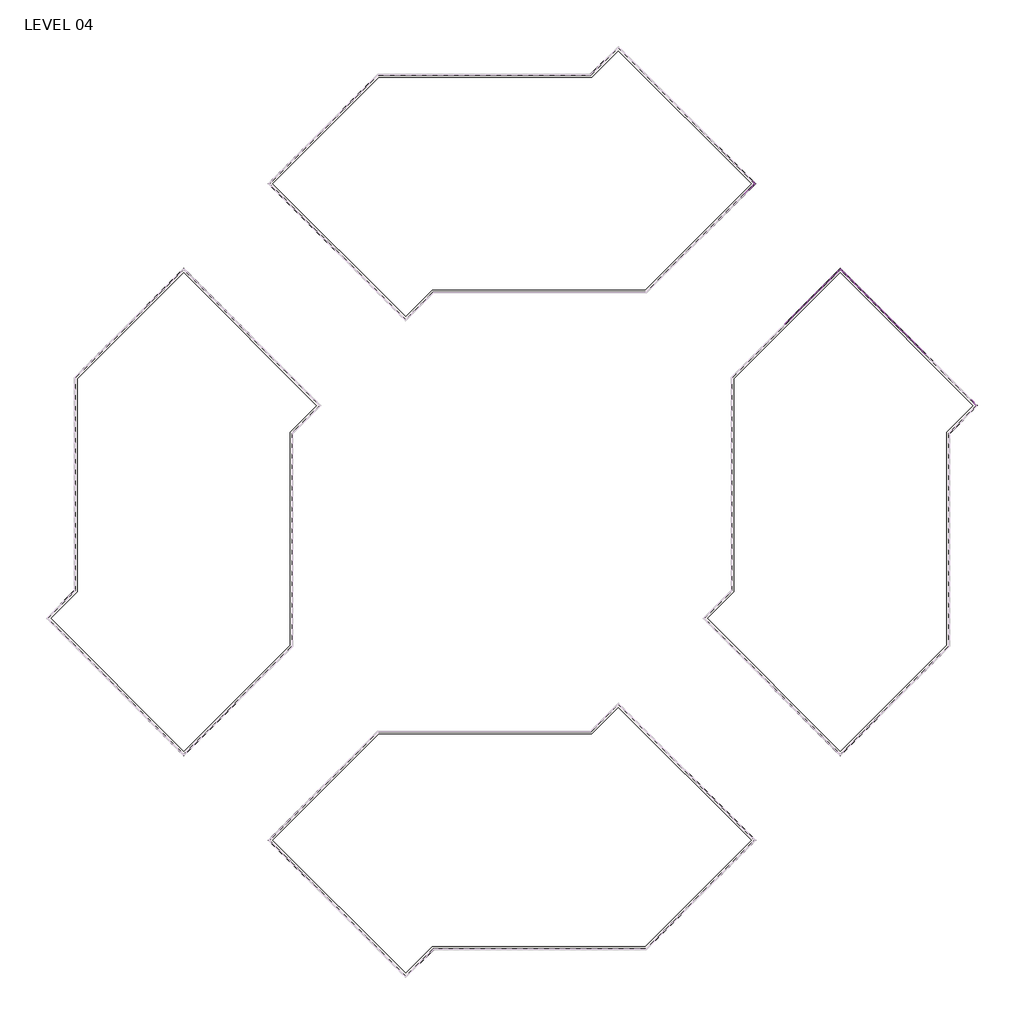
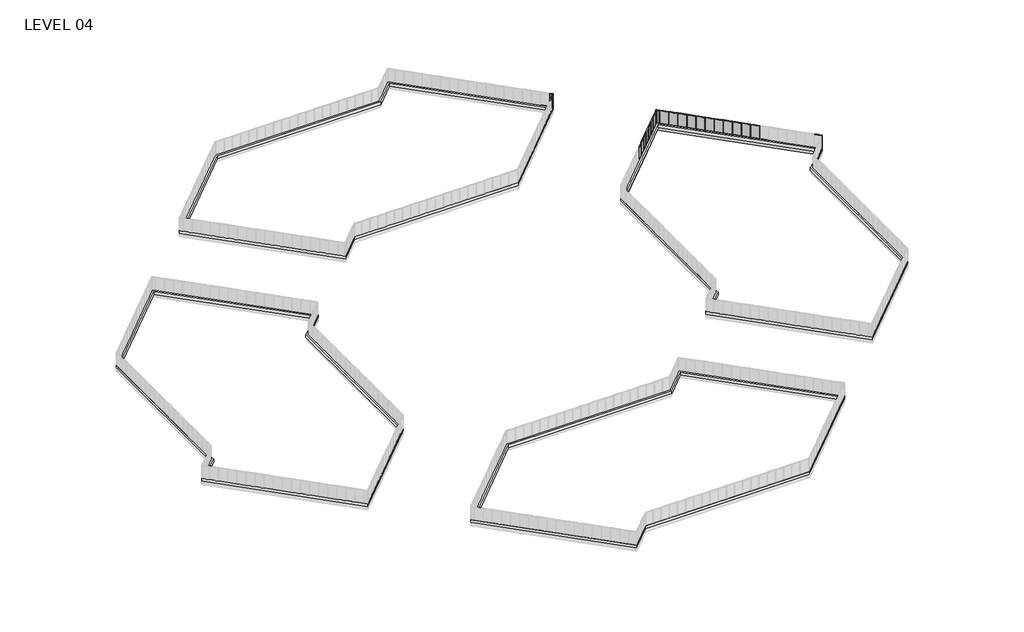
# One storey, part 17 of 17: 75 members, 22 plates, 4 slabs, 2 walls.
"""IFC4 building model written with IfcOpenShell, lengths in millimetres."""

from ifc_helpers import new_model, si_unit, frame, origin, place, context, project, spatial, polyline, outline, extrude, faceted_brep, transform, mapped, element, save
from components import member_5247f267, member_e44af9ab, member_800970d4, member_25b26a38, member_c23f844a, member_53409b32, member_ed9c17d6, member_0b71a88d, plate_6d527a83, plate_67294edd, plate_aaac5d3d, plate_50b9cd61, plate_048e4634, plate_e0fd5134, plate_62af1d3c, plate_dca6a18a

model = new_model("IFC4")

# Units and contexts
model_context = context("Model", 3, world=origin())
ifc_project = project(units=[si_unit("LENGTHUNIT", "METRE", prefix="MILLI")], contexts=[model_context])

# Site, building, storey
site = spatial("IfcSite", under=ifc_project)
building = spatial("IfcBuilding", under=site)
storey = spatial("IfcBuildingStorey", under=building, Name="LEVEL 04", Elevation=12052.3)

# Members
placement = place(None, origin())
member_shape = member_5247f267(model_context)
element("IfcMember", 1, ObjectType="Rectangular Mullion : 2\" x 4.5\" rectangular", at=placement, inside=storey, context=model_context, shape_type="MappedRepresentation", body=[
    mapped(member_shape, transform((64227.3404937, 104942.2679469, 12052.3), x_axis=(0.0, 0.0, -1.0), y_axis=(0.7071067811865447, 0.7071067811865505, 0.0), z_axis=(0.7071067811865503, -0.7071067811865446, 0.0))),
])
element("IfcMember", 2, ObjectType="Rectangular Mullion : 2\" x 4.5\" rectangular", at=placement, inside=storey, context=model_context, shape_type="MappedRepresentation", body=[
    mapped(member_shape, transform((64227.3404937, 104141.486663, 14643.1), x_axis=(0.0, 0.0, 1.0), y_axis=(0.7071067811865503, -0.7071067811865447, 0.0), z_axis=(0.7071067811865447, 0.7071067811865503, 0.0))),
])
member_2_shape = member_e44af9ab(model_context)
element("IfcMember", 3, ObjectType="Rectangular Mullion : 2\" x 4.5\" rectangular", at=placement, inside=storey, context=model_context, shape_type="MappedRepresentation", body=[
    mapped(member_2_shape, transform((64245.3010059, 104159.4471752, 12052.3), x_axis=(0.7071067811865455, 0.7071067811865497, 0.0), y_axis=(0.7071067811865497, -0.7071067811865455, 0.0), z_axis=(0.0, 0.0, -1.0))),
])
element("IfcMember", 4, ObjectType="Rectangular Mullion : 2\" x 4.5\" rectangular", at=placement, inside=storey, context=model_context, shape_type="MappedRepresentation", body=[
    mapped(member_2_shape, transform((64245.3010059, 104924.3074346, 12052.3), x_axis=(-0.7071067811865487, 0.7071067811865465, 0.0), y_axis=(0.7071067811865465, 0.7071067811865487, 0.0), z_axis=(0.0, 0.0, -1.0))),
])
member_3_shape = member_800970d4(model_context)
element("IfcMember", 5, ObjectType="Rectangular Mullion : 2\" x 4.5\" rectangular", at=placement, inside=storey, context=model_context, shape_type="MappedRepresentation", body=[
    mapped(member_3_shape, transform((64627.7311356, 104541.8773049, 12052.3), x_axis=(0.7071067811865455, 0.7071067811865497, 0.0), y_axis=(0.7071067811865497, -0.7071067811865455, 0.0), z_axis=(0.0, 0.0, -1.0))),
])
element("IfcMember", 6, ObjectType="Rectangular Mullion : 2\" x 4.5\" rectangular", at=placement, inside=storey, context=model_context, shape_type="MappedRepresentation", body=[
    mapped(member_3_shape, transform((64627.7311356, 104541.8773049, 14643.1), x_axis=(0.7071067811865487, -0.7071067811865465, 0.0), y_axis=(0.7071067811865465, 0.7071067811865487, 0.0), z_axis=(0.0, 0.0, 1.0))),
])
member_4_shape = member_25b26a38(model_context)
element("IfcMember", 7, ObjectType="Rectangular Mullion : 2\" x 4.5\" rectangular", at=placement, inside=storey, context=model_context, shape_type="MappedRepresentation", body=[
    mapped(member_4_shape, transform((64263.2615182, 104177.4076875, 12052.3), x_axis=(0.0, 0.0, -1.0), y_axis=(0.7071067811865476, -0.7071067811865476, 0.0), z_axis=(-0.7071067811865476, -0.7071067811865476, 0.0))),
])
element("IfcMember", 8, ObjectType="Rectangular Mullion : 2\" x 4.5\" rectangular", at=placement, inside=storey, context=model_context, shape_type="MappedRepresentation", body=[
    mapped(member_4_shape, transform((64591.8101111, 104577.7983294, 12052.3), x_axis=(0.0, 0.0, -1.0), y_axis=(0.7071067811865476, 0.7071067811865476, 0.0), z_axis=(0.7071067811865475, -0.7071067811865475, 0.0))),
])
element("IfcMember", 9, ObjectType="Rectangular Mullion : 2\" x 4.5\" rectangular", at=placement, inside=storey, context=model_context, shape_type="MappedRepresentation", body=[
    mapped(member_4_shape, transform((64591.8101111, 104505.9562804, 14643.1), x_axis=(0.0, 0.0, 1.0), y_axis=(0.7071067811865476, -0.7071067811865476, 0.0), z_axis=(0.7071067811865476, 0.7071067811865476, 0.0))),
])
element("IfcMember", 10, ObjectType="Rectangular Mullion : 2\" x 4.5\" rectangular", at=placement, inside=storey, context=model_context, shape_type="MappedRepresentation", body=[
    mapped(member_4_shape, transform((64263.2615182, 104906.3469224, 14643.1), x_axis=(0.0, 0.0, 1.0), y_axis=(0.7071067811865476, 0.7071067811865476, 0.0), z_axis=(-0.7071067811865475, 0.7071067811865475, 0.0))),
])
element("IfcMember", 11, ObjectType="Rectangular Mullion : 2\" x 4.5\" rectangular", at=placement, inside=storey, context=model_context, shape_type="MappedRepresentation", body=[
    mapped(member_shape, transform((69983.7142707, 85453.6032785, 14643.1), x_axis=(0.0, 0.0, 1.0), y_axis=(0.7071067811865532, -0.7071067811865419, 0.0), z_axis=(0.7071067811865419, 0.7071067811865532, 0.0))),
])
element("IfcMember", 12, ObjectType="Rectangular Mullion : 2\" x 4.5\" rectangular", at=placement, inside=storey, context=model_context, shape_type="MappedRepresentation", body=[
    mapped(member_shape, transform((71061.3302035, 86531.2192113, 14643.1), x_axis=(0.0, 0.0, 1.0), y_axis=(0.7071067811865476, -0.7071067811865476, 0.0), z_axis=(0.7071067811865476, 0.7071067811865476, 0.0))),
])
element("IfcMember", 13, ObjectType="Rectangular Mullion : 2\" x 4.5\" rectangular", at=placement, inside=storey, context=model_context, shape_type="MappedRepresentation", body=[
    mapped(member_shape, transform((73216.5768709, 88686.4658786, 14643.1), x_axis=(0.0, 0.0, 1.0), y_axis=(0.7071067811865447, -0.7071067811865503, 0.0), z_axis=(0.7071067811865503, 0.7071067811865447, 0.0))),
])
element("IfcMember", 14, ObjectType="Rectangular Mullion : 2\" x 4.5\" rectangular", at=placement, inside=storey, context=model_context, shape_type="MappedRepresentation", body=[
    mapped(member_shape, transform((72138.9535372, 87608.842545, 14643.1), x_axis=(0.0, 0.0, 1.0), y_axis=(0.7071067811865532, -0.7071067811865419, 0.0), z_axis=(0.7071067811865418, 0.7071067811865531, 0.0))),
])
element("IfcMember", 15, ObjectType="Rectangular Mullion : 2\" x 4.5\" rectangular", at=placement, inside=storey, context=model_context, shape_type="MappedRepresentation", body=[
    mapped(member_shape, transform((74294.2076054, 89764.0966131, 14643.1), x_axis=(0.0, 0.0, 1.0), y_axis=(0.7071067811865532, -0.7071067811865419, 0.0), z_axis=(0.7071067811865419, 0.7071067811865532, 0.0))),
])
element("IfcMember", 16, ObjectType="Rectangular Mullion : 2\" x 4.5\" rectangular", at=placement, inside=storey, context=model_context, shape_type="MappedRepresentation", body=[
    mapped(member_shape, transform((75371.8383399, 90841.7273477, 14643.1), x_axis=(0.0, 0.0, 1.0), y_axis=(0.7071067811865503, -0.7071067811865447, 0.0), z_axis=(0.7071067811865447, 0.7071067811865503, 0.0))),
])
element("IfcMember", 17, ObjectType="Rectangular Mullion : 2\" x 4.5\" rectangular", at=placement, inside=storey, context=model_context, shape_type="MappedRepresentation", body=[
    mapped(member_shape, transform((76449.4690745, 91919.3580822, 14643.1), x_axis=(0.0, 0.0, 1.0), y_axis=(0.7071067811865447, -0.7071067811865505, 0.0), z_axis=(0.7071067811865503, 0.7071067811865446, 0.0))),
])
element("IfcMember", 18, ObjectType="Rectangular Mullion : 2\" x 4.5\" rectangular", at=placement, inside=storey, context=model_context, shape_type="MappedRepresentation", body=[
    mapped(member_shape, transform((79369.5908029, 89800.0176376, 14643.1), x_axis=(0.0, 0.0, 1.0), y_axis=(-0.7071067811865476, -0.7071067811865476, 0.0), z_axis=(0.7071067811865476, -0.7071067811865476, 0.0))),
])
element("IfcMember", 19, ObjectType="Rectangular Mullion : 2\" x 4.5\" rectangular", at=placement, inside=storey, context=model_context, shape_type="MappedRepresentation", body=[
    mapped(member_shape, transform((80447.2215374, 88722.3869031, 14643.1), x_axis=(0.0, 0.0, 1.0), y_axis=(-0.7071067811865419, -0.7071067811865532, 0.0), z_axis=(0.7071067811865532, -0.7071067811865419, 0.0))),
])
element("IfcMember", 20, ObjectType="Rectangular Mullion : 2\" x 4.5\" rectangular", at=placement, inside=storey, context=model_context, shape_type="MappedRepresentation", body=[
    mapped(member_shape, transform((82602.447272, 86567.1611686, 14643.1), x_axis=(0.0, 0.0, 1.0), y_axis=(-0.7071067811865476, -0.7071067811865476, 0.0), z_axis=(0.7071067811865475, -0.7071067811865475, 0.0))),
])
element("IfcMember", 21, ObjectType="Rectangular Mullion : 2\" x 4.5\" rectangular", at=placement, inside=storey, context=model_context, shape_type="MappedRepresentation", body=[
    mapped(member_shape, transform((83680.042272, 85489.5661686, 14643.1), x_axis=(0.0, 0.0, 1.0), y_axis=(-0.7071067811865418, -0.7071067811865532, 0.0), z_axis=(0.7071067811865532, -0.7071067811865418, 0.0))),
])
element("IfcMember", 22, ObjectType="Rectangular Mullion : 2\" x 4.5\" rectangular", at=placement, inside=storey, context=model_context, shape_type="MappedRepresentation", body=[
    mapped(member_shape, transform((84757.637272, 84411.9711686, 14643.1), x_axis=(0.0, 0.0, 1.0), y_axis=(-0.7071067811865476, -0.7071067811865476, 0.0), z_axis=(0.7071067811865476, -0.7071067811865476, 0.0))),
])
element("IfcMember", 23, ObjectType="Rectangular Mullion : 2\" x 4.5\" rectangular", at=placement, inside=storey, context=model_context, shape_type="MappedRepresentation", body=[
    mapped(member_shape, transform((85835.232272, 83334.3761686, 14643.1), x_axis=(0.0, 0.0, 1.0), y_axis=(-0.7071067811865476, -0.7071067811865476, 0.0), z_axis=(0.7071067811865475, -0.7071067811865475, 0.0))),
])
element("IfcMember", 24, ObjectType="Rectangular Mullion : 2\" x 4.5\" rectangular", at=placement, inside=storey, context=model_context, shape_type="MappedRepresentation", body=[
    mapped(member_shape, transform((78291.9600684, 90877.6483722, 14643.1), x_axis=(0.0, 0.0, 1.0), y_axis=(-0.7071067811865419, -0.7071067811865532, 0.0), z_axis=(0.7071067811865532, -0.7071067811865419, 0.0))),
])
element("IfcMember", 25, ObjectType="Rectangular Mullion : 2\" x 4.5\" rectangular", at=placement, inside=storey, context=model_context, shape_type="MappedRepresentation", body=[
    mapped(member_shape, transform((81524.8344047, 87644.7740358, 14643.1), x_axis=(0.0, 0.0, 1.0), y_axis=(-0.7071067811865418, -0.7071067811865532, 0.0), z_axis=(0.7071067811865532, -0.7071067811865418, 0.0))),
])
element("IfcMember", 26, ObjectType="Rectangular Mullion : 2\" x 4.5\" rectangular", at=placement, inside=storey, context=model_context, shape_type="MappedRepresentation", body=[
    mapped(member_shape, transform((70019.6352952, 85489.524303, 12052.3), x_axis=(0.0, 0.0, -1.0), y_axis=(0.7071067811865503, -0.7071067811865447, 0.0), z_axis=(-0.7071067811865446, -0.7071067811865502, 0.0))),
])
element("IfcMember", 27, ObjectType="Rectangular Mullion : 2\" x 4.5\" rectangular", at=placement, inside=storey, context=model_context, shape_type="MappedRepresentation", body=[
    mapped(member_shape, transform((71097.251228, 86567.1402358, 12052.3), x_axis=(0.0, 0.0, -1.0), y_axis=(0.7071067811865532, -0.7071067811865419, 0.0), z_axis=(-0.7071067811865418, -0.7071067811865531, 0.0))),
])
element("IfcMember", 28, ObjectType="Rectangular Mullion : 2\" x 4.5\" rectangular", at=placement, inside=storey, context=model_context, shape_type="MappedRepresentation", body=[
    mapped(member_shape, transform((73252.4978954, 88722.3869031, 12052.3), x_axis=(0.0, 0.0, -1.0), y_axis=(0.7071067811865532, -0.7071067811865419, 0.0), z_axis=(-0.7071067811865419, -0.7071067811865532, 0.0))),
])
element("IfcMember", 29, ObjectType="Rectangular Mullion : 2\" x 4.5\" rectangular", at=placement, inside=storey, context=model_context, shape_type="MappedRepresentation", body=[
    mapped(member_shape, transform((72174.8745617, 87644.7635694, 12052.3), x_axis=(0.0, 0.0, -1.0), y_axis=(0.7071067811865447, -0.7071067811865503, 0.0), z_axis=(-0.7071067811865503, -0.7071067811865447, 0.0))),
])
element("IfcMember", 30, ObjectType="Rectangular Mullion : 2\" x 4.5\" rectangular", at=placement, inside=storey, context=model_context, shape_type="MappedRepresentation", body=[
    mapped(member_shape, transform((74330.1286299, 89800.0176376, 12052.3), x_axis=(0.0, 0.0, -1.0), y_axis=(0.7071067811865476, -0.7071067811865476, 0.0), z_axis=(-0.7071067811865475, -0.7071067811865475, 0.0))),
])
element("IfcMember", 31, ObjectType="Rectangular Mullion : 2\" x 4.5\" rectangular", at=placement, inside=storey, context=model_context, shape_type="MappedRepresentation", body=[
    mapped(member_shape, transform((75407.7593644, 90877.6483722, 12052.3), x_axis=(0.0, 0.0, -1.0), y_axis=(0.7071067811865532, -0.7071067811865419, 0.0), z_axis=(-0.7071067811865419, -0.7071067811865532, 0.0))),
])
element("IfcMember", 32, ObjectType="Rectangular Mullion : 2\" x 4.5\" rectangular", at=placement, inside=storey, context=model_context, shape_type="MappedRepresentation", body=[
    mapped(member_shape, transform((79405.5118274, 89764.0966131, 12052.3), x_axis=(0.0, 0.0, -1.0), y_axis=(-0.7071067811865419, -0.7071067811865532, 0.0), z_axis=(-0.7071067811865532, 0.7071067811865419, 0.0))),
])
element("IfcMember", 33, ObjectType="Rectangular Mullion : 2\" x 4.5\" rectangular", at=placement, inside=storey, context=model_context, shape_type="MappedRepresentation", body=[
    mapped(member_shape, transform((80483.1425619, 88686.4658786, 12052.3), x_axis=(0.0, 0.0, -1.0), y_axis=(-0.7071067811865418, -0.7071067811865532, 0.0), z_axis=(-0.7071067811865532, 0.7071067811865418, 0.0))),
])
element("IfcMember", 34, ObjectType="Rectangular Mullion : 2\" x 4.5\" rectangular", at=placement, inside=storey, context=model_context, shape_type="MappedRepresentation", body=[
    mapped(member_shape, transform((82638.3682965, 86531.2401441, 12052.3), x_axis=(0.0, 0.0, -1.0), y_axis=(-0.7071067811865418, -0.7071067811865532, 0.0), z_axis=(-0.7071067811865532, 0.7071067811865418, 0.0))),
])
element("IfcMember", 35, ObjectType="Rectangular Mullion : 2\" x 4.5\" rectangular", at=placement, inside=storey, context=model_context, shape_type="MappedRepresentation", body=[
    mapped(member_shape, transform((83715.9632965, 85453.6451441, 12052.3), x_axis=(0.0, 0.0, -1.0), y_axis=(-0.7071067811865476, -0.7071067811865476, 0.0), z_axis=(-0.7071067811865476, 0.7071067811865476, 0.0))),
])
element("IfcMember", 36, ObjectType="Rectangular Mullion : 2\" x 4.5\" rectangular", at=placement, inside=storey, context=model_context, shape_type="MappedRepresentation", body=[
    mapped(member_shape, transform((84793.5582965, 84376.0501441, 12052.3), x_axis=(0.0, 0.0, -1.0), y_axis=(-0.7071067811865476, -0.7071067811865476, 0.0), z_axis=(-0.7071067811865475, 0.7071067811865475, 0.0))),
])
element("IfcMember", 37, ObjectType="Rectangular Mullion : 2\" x 4.5\" rectangular", at=placement, inside=storey, context=model_context, shape_type="MappedRepresentation", body=[
    mapped(member_shape, transform((78327.8810929, 90841.7273477, 12052.3), x_axis=(0.0, 0.0, -1.0), y_axis=(-0.7071067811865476, -0.7071067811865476, 0.0), z_axis=(-0.7071067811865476, 0.7071067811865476, 0.0))),
])
element("IfcMember", 38, ObjectType="Rectangular Mullion : 2\" x 4.5\" rectangular", at=placement, inside=storey, context=model_context, shape_type="MappedRepresentation", body=[
    mapped(member_shape, transform((77250.2503583, 91919.3580822, 12052.3), x_axis=(0.0, 0.0, -1.0), y_axis=(-0.7071067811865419, -0.7071067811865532, 0.0), z_axis=(-0.7071067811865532, 0.7071067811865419, 0.0))),
])
element("IfcMember", 39, ObjectType="Rectangular Mullion : 2\" x 4.5\" rectangular", at=placement, inside=storey, context=model_context, shape_type="MappedRepresentation", body=[
    mapped(member_shape, transform((81560.7554292, 87608.8530114, 12052.3), x_axis=(0.0, 0.0, -1.0), y_axis=(-0.7071067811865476, -0.7071067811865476, 0.0), z_axis=(-0.7071067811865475, 0.7071067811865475, 0.0))),
])
element("IfcMember", 40, ObjectType="Rectangular Mullion : 2\" x 4.5\" rectangular", at=placement, inside=storey, context=model_context, shape_type="MappedRepresentation", body=[
    mapped(member_2_shape, transform((70001.674783, 85471.5637907, 12052.3), x_axis=(0.7071067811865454, 0.7071067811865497, 0.0), y_axis=(0.7071067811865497, -0.7071067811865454, 0.0), z_axis=(0.0, 0.0, -1.0))),
])
element("IfcMember", 41, ObjectType="Rectangular Mullion : 2\" x 4.5\" rectangular", at=placement, inside=storey, context=model_context, shape_type="MappedRepresentation", body=[
    mapped(member_2_shape, transform((71079.2907158, 86549.1797235, 12052.3), x_axis=(0.7071067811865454, 0.7071067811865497, 0.0), y_axis=(0.7071067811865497, -0.7071067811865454, 0.0), z_axis=(0.0, 0.0, -1.0))),
])
element("IfcMember", 42, ObjectType="Rectangular Mullion : 2\" x 4.5\" rectangular", at=placement, inside=storey, context=model_context, shape_type="MappedRepresentation", body=[
    mapped(member_2_shape, transform((73234.5373831, 88704.4263909, 12052.3), x_axis=(0.7071067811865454, 0.7071067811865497, 0.0), y_axis=(0.7071067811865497, -0.7071067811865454, 0.0), z_axis=(0.0, 0.0, -1.0))),
])
element("IfcMember", 43, ObjectType="Rectangular Mullion : 2\" x 4.5\" rectangular", at=placement, inside=storey, context=model_context, shape_type="MappedRepresentation", body=[
    mapped(member_2_shape, transform((72156.9140495, 87626.8030572, 12052.3), x_axis=(0.7071067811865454, 0.7071067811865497, 0.0), y_axis=(0.7071067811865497, -0.7071067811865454, 0.0), z_axis=(0.0, 0.0, -1.0))),
])
element("IfcMember", 44, ObjectType="Rectangular Mullion : 2\" x 4.5\" rectangular", at=placement, inside=storey, context=model_context, shape_type="MappedRepresentation", body=[
    mapped(member_2_shape, transform((74312.1681176, 89782.0571254, 12052.3), x_axis=(0.7071067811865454, 0.7071067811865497, 0.0), y_axis=(0.7071067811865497, -0.7071067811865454, 0.0), z_axis=(0.0, 0.0, -1.0))),
])
element("IfcMember", 45, ObjectType="Rectangular Mullion : 2\" x 4.5\" rectangular", at=placement, inside=storey, context=model_context, shape_type="MappedRepresentation", body=[
    mapped(member_2_shape, transform((75389.7988522, 90859.6878599, 12052.3), x_axis=(0.7071067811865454, 0.7071067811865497, 0.0), y_axis=(0.7071067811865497, -0.7071067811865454, 0.0), z_axis=(0.0, 0.0, -1.0))),
])
element("IfcMember", 46, ObjectType="Rectangular Mullion : 2\" x 4.5\" rectangular", at=placement, inside=storey, context=model_context, shape_type="MappedRepresentation", body=[
    mapped(member_2_shape, transform((76467.4295867, 91937.3185944, 12052.3), x_axis=(0.7071067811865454, 0.7071067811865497, 0.0), y_axis=(0.7071067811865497, -0.7071067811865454, 0.0), z_axis=(0.0, 0.0, -1.0))),
])
element("IfcMember", 47, ObjectType="Rectangular Mullion : 2\" x 4.5\" rectangular", at=placement, inside=storey, context=model_context, shape_type="MappedRepresentation", body=[
    mapped(member_2_shape, transform((79387.5513152, 89782.0571254, 12052.3), x_axis=(0.7071067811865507, -0.7071067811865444, 0.0), y_axis=(-0.7071067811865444, -0.7071067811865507, 0.0), z_axis=(0.0, 0.0, -1.0))),
])
element("IfcMember", 48, ObjectType="Rectangular Mullion : 2\" x 4.5\" rectangular", at=placement, inside=storey, context=model_context, shape_type="MappedRepresentation", body=[
    mapped(member_2_shape, transform((80465.1820497, 88704.4263909, 12052.3), x_axis=(0.7071067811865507, -0.7071067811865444, 0.0), y_axis=(-0.7071067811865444, -0.7071067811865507, 0.0), z_axis=(0.0, 0.0, -1.0))),
])
element("IfcMember", 49, ObjectType="Rectangular Mullion : 2\" x 4.5\" rectangular", at=placement, inside=storey, context=model_context, shape_type="MappedRepresentation", body=[
    mapped(member_2_shape, transform((82620.4077842, 86549.2006563, 12052.3), x_axis=(0.7071067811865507, -0.7071067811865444, 0.0), y_axis=(-0.7071067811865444, -0.7071067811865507, 0.0), z_axis=(0.0, 0.0, -1.0))),
])
element("IfcMember", 50, ObjectType="Rectangular Mullion : 2\" x 4.5\" rectangular", at=placement, inside=storey, context=model_context, shape_type="MappedRepresentation", body=[
    mapped(member_2_shape, transform((83698.0027842, 85471.6056563, 12052.3), x_axis=(0.7071067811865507, -0.7071067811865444, 0.0), y_axis=(-0.7071067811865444, -0.7071067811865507, 0.0), z_axis=(0.0, 0.0, -1.0))),
])
element("IfcMember", 51, ObjectType="Rectangular Mullion : 2\" x 4.5\" rectangular", at=placement, inside=storey, context=model_context, shape_type="MappedRepresentation", body=[
    mapped(member_2_shape, transform((84775.5977842, 84394.0106563, 12052.3), x_axis=(0.7071067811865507, -0.7071067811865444, 0.0), y_axis=(-0.7071067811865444, -0.7071067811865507, 0.0), z_axis=(0.0, 0.0, -1.0))),
])
element("IfcMember", 52, ObjectType="Rectangular Mullion : 2\" x 4.5\" rectangular", at=placement, inside=storey, context=model_context, shape_type="MappedRepresentation", body=[
    mapped(member_2_shape, transform((85853.1927842, 83316.4156563, 12052.3), x_axis=(0.7071067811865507, -0.7071067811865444, 0.0), y_axis=(-0.7071067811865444, -0.7071067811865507, 0.0), z_axis=(0.0, 0.0, -1.0))),
])
element("IfcMember", 53, ObjectType="Rectangular Mullion : 2\" x 4.5\" rectangular", at=placement, inside=storey, context=model_context, shape_type="MappedRepresentation", body=[
    mapped(member_2_shape, transform((88002.431194, 81167.1772465, 12052.3), x_axis=(0.7071067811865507, -0.7071067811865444, 0.0), y_axis=(-0.7071067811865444, -0.7071067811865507, 0.0), z_axis=(0.0, 0.0, -1.0))),
])
element("IfcMember", 54, ObjectType="Rectangular Mullion : 2\" x 4.5\" rectangular", at=placement, inside=storey, context=model_context, shape_type="MappedRepresentation", body=[
    mapped(member_2_shape, transform((89074.0746038, 80095.5338367, 12052.3), x_axis=(0.7071067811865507, -0.7071067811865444, 0.0), y_axis=(-0.7071067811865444, -0.7071067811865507, 0.0), z_axis=(0.0, 0.0, -1.0))),
])
element("IfcMember", 55, ObjectType="Rectangular Mullion : 2\" x 4.5\" rectangular", at=placement, inside=storey, context=model_context, shape_type="MappedRepresentation", body=[
    mapped(member_2_shape, transform((78309.9205806, 90859.6878599, 12052.3), x_axis=(0.7071067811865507, -0.7071067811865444, 0.0), y_axis=(-0.7071067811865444, -0.7071067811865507, 0.0), z_axis=(0.0, 0.0, -1.0))),
])
element("IfcMember", 56, ObjectType="Rectangular Mullion : 2\" x 4.5\" rectangular", at=placement, inside=storey, context=model_context, shape_type="MappedRepresentation", body=[
    mapped(member_2_shape, transform((77232.2898461, 91937.3185944, 12052.3), x_axis=(0.7071067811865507, -0.7071067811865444, 0.0), y_axis=(-0.7071067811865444, -0.7071067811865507, 0.0), z_axis=(0.0, 0.0, -1.0))),
])
element("IfcMember", 57, ObjectType="Rectangular Mullion : 2\" x 4.5\" rectangular", at=placement, inside=storey, context=model_context, shape_type="MappedRepresentation", body=[
    mapped(member_2_shape, transform((81542.794917, 87626.8135236, 12052.3), x_axis=(0.7071067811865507, -0.7071067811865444, 0.0), y_axis=(-0.7071067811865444, -0.7071067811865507, 0.0), z_axis=(0.0, 0.0, -1.0))),
])
element("IfcMember", 58, ObjectType="Rectangular Mullion : 2\" x 4.5\" rectangular", at=placement, inside=storey, context=model_context, shape_type="MappedRepresentation", body=[
    mapped(member_2_shape, transform((86927.8119891, 82241.7964514, 12052.3), x_axis=(0.7071067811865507, -0.7071067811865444, 0.0), y_axis=(-0.7071067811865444, -0.7071067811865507, 0.0), z_axis=(0.0, 0.0, -1.0))),
])
element("IfcMember", 59, ObjectType="Rectangular Mullion : 2\" x 4.5\" rectangular", at=placement, inside=storey, context=model_context, shape_type="MappedRepresentation", body=[
    mapped(member_3_shape, transform((76849.8597164, 92319.7487241, 12052.3), x_axis=(0.7071067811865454, 0.7071067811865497, 0.0), y_axis=(0.7071067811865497, -0.7071067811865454, 0.0), z_axis=(0.0, 0.0, -1.0))),
])
element("IfcMember", 60, ObjectType="Rectangular Mullion : 2\" x 4.5\" rectangular", at=placement, inside=storey, context=model_context, shape_type="MappedRepresentation", body=[
    mapped(member_3_shape, transform((96411.640852, 72757.9675885, 12052.3), x_axis=(0.7071067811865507, -0.7071067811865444, 0.0), y_axis=(-0.7071067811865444, -0.7071067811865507, 0.0), z_axis=(0.0, 0.0, -1.0))),
])
element("IfcMember", 61, ObjectType="Rectangular Mullion : 2\" x 4.5\" rectangular", at=placement, inside=storey, context=model_context, shape_type="MappedRepresentation", body=[
    mapped(member_3_shape, transform((76849.8597164, 92319.7487241, 14643.1), x_axis=(-0.7071067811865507, 0.7071067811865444, 0.0), y_axis=(-0.7071067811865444, -0.7071067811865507, 0.0), z_axis=(0.0, 0.0, 1.0))),
])
element("IfcMember", 62, ObjectType="Rectangular Mullion : 2\" x 4.5\" rectangular", at=placement, inside=storey, context=model_context, shape_type="MappedRepresentation", body=[
    mapped(member_3_shape, transform((96411.640852, 72757.9675885, 14643.1), x_axis=(0.7071067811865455, 0.7071067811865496, 0.0), y_axis=(-0.7071067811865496, 0.7071067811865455, 0.0), z_axis=(0.0, 0.0, 1.0))),
])
member_5_shape = member_c23f844a(model_context)
element("IfcMember", 63, ObjectType="Rectangular Mullion : 2\" x 4.5\" rectangular", at=placement, inside=storey, context=model_context, shape_type="MappedRepresentation", body=[
    mapped(member_5_shape, transform((89056.1140916, 80113.494349, 14643.1), x_axis=(0.0, 0.0, 1.0), y_axis=(-0.7071067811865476, -0.7071067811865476, 0.0), z_axis=(0.7071067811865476, -0.7071067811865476, 0.0))),
])
element("IfcMember", 64, ObjectType="Rectangular Mullion : 2\" x 4.5\" rectangular", at=placement, inside=storey, context=model_context, shape_type="MappedRepresentation", body=[
    mapped(member_5_shape, transform((88020.3917063, 81149.2167343, 12052.3), x_axis=(0.0, 0.0, -1.0), y_axis=(-0.7071067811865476, -0.7071067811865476, 0.0), z_axis=(-0.7071067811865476, 0.7071067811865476, 0.0))),
])
element("IfcMember", 65, ObjectType="Rectangular Mullion : 2\" x 4.5\" rectangular", at=placement, inside=storey, context=model_context, shape_type="MappedRepresentation", body=[
    mapped(member_5_shape, transform((89092.035116, 80077.5733245, 12052.3), x_axis=(0.0, 0.0, -1.0), y_axis=(-0.7071067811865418, -0.7071067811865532, 0.0), z_axis=(-0.7071067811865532, 0.7071067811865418, 0.0))),
])
element("IfcMember", 66, ObjectType="Rectangular Mullion : 2\" x 4.5\" rectangular", at=placement, inside=storey, context=model_context, shape_type="MappedRepresentation", body=[
    mapped(member_4_shape, transform((76813.9386919, 92283.8276997, 14643.1), x_axis=(0.0, 0.0, 1.0), y_axis=(0.7071067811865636, -0.7071067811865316, 0.0), z_axis=(0.7071067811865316, 0.7071067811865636, 0.0))),
])
element("IfcMember", 67, ObjectType="Rectangular Mullion : 2\" x 4.5\" rectangular", at=placement, inside=storey, context=model_context, shape_type="MappedRepresentation", body=[
    mapped(member_4_shape, transform((77214.3293339, 91955.2791067, 14643.1), x_axis=(0.0, 0.0, 1.0), y_axis=(-0.7071067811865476, -0.7071067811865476, 0.0), z_axis=(0.7071067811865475, -0.7071067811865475, 0.0))),
])
element("IfcMember", 68, ObjectType="Rectangular Mullion : 2\" x 4.5\" rectangular", at=placement, inside=storey, context=model_context, shape_type="MappedRepresentation", body=[
    mapped(member_4_shape, transform((76485.3900989, 91955.2791067, 12052.3), x_axis=(0.0, 0.0, -1.0), y_axis=(0.7071067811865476, -0.7071067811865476, 0.0), z_axis=(-0.7071067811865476, -0.7071067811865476, 0.0))),
])
element("IfcMember", 69, ObjectType="Rectangular Mullion : 2\" x 4.5\" rectangular", at=placement, inside=storey, context=model_context, shape_type="MappedRepresentation", body=[
    mapped(member_4_shape, transform((76885.7807409, 92283.8276997, 12052.3), x_axis=(0.0, 0.0, -1.0), y_axis=(-0.7071067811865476, -0.7071067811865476, 0.0), z_axis=(-0.7071067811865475, 0.7071067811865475, 0.0))),
])
member_6_shape = member_53409b32(model_context)
element("IfcMember", 70, ObjectType="Rectangular Mullion : 2\" x 4.5\" rectangular", at=placement, inside=storey, context=model_context, shape_type="MappedRepresentation", body=[
    mapped(member_6_shape, transform((96375.7198275, 72793.888613, 14643.1), x_axis=(0.0, 0.0, 1.0), y_axis=(-0.7071067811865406, -0.7071067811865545, 0.0), z_axis=(0.7071067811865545, -0.7071067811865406, 0.0))),
])
member_7_shape = member_ed9c17d6(model_context)
element("IfcMember", 71, ObjectType="Rectangular Mullion : 2\" x 4.5\" rectangular", at=placement, inside=storey, context=model_context, shape_type="MappedRepresentation", body=[
    mapped(member_7_shape, transform((87984.4706818, 81185.1377588, 14643.1), x_axis=(0.0, 0.0, 1.0), y_axis=(-0.7071067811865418, -0.7071067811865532, 0.0), z_axis=(0.7071067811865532, -0.7071067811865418, 0.0))),
])
element("IfcMember", 72, ObjectType="Rectangular Mullion : 2\" x 4.5\" rectangular", at=placement, inside=storey, context=model_context, shape_type="MappedRepresentation", body=[
    mapped(member_7_shape, transform((86909.8514769, 82259.7569637, 14643.1), x_axis=(0.0, 0.0, 1.0), y_axis=(-0.7071067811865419, -0.7071067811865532, 0.0), z_axis=(0.7071067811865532, -0.7071067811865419, 0.0))),
])
element("IfcMember", 73, ObjectType="Rectangular Mullion : 2\" x 4.5\" rectangular", at=placement, inside=storey, context=model_context, shape_type="MappedRepresentation", body=[
    mapped(member_7_shape, transform((85871.1532965, 83298.4551441, 12052.3), x_axis=(0.0, 0.0, -1.0), y_axis=(-0.7071067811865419, -0.7071067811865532, 0.0), z_axis=(-0.7071067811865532, 0.7071067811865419, 0.0))),
])
element("IfcMember", 74, ObjectType="Rectangular Mullion : 2\" x 4.5\" rectangular", at=placement, inside=storey, context=model_context, shape_type="MappedRepresentation", body=[
    mapped(member_7_shape, transform((86945.7725014, 82223.8359392, 12052.3), x_axis=(0.0, 0.0, -1.0), y_axis=(-0.7071067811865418, -0.7071067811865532, 0.0), z_axis=(-0.7071067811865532, 0.7071067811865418, 0.0))),
])
member_8_shape = member_0b71a88d(model_context)
element("IfcMember", 75, ObjectType="Rectangular Mullion : 2\" x 4.5\" rectangular", at=placement, inside=storey, context=model_context, shape_type="MappedRepresentation", body=[
    mapped(member_8_shape, transform((96375.7198275, 72722.046564, 12052.3), x_axis=(0.0, 0.0, -1.0), y_axis=(-0.7071067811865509, 0.7071067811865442, 0.0), z_axis=(0.7071067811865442, 0.7071067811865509, 0.0))),
])

# Plates
plate_shape = plate_6d527a83(model_context)
element("IfcPlate", 76, ObjectType="System Panel : 1/4\" Glass", at=placement, inside=storey, context=model_context, shape_type="MappedRepresentation", body=[
    mapped(plate_shape, transform((64427.5358147, 104341.681984, 12103.1), x_axis=(0.7071067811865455, 0.7071067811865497, 0.0), y_axis=(-0.7071067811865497, 0.7071067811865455, 0.0), z_axis=(0.0, 0.0, 1.0))),
])
element("IfcPlate", 77, ObjectType="System Panel : 1/4\" Glass", at=placement, inside=storey, context=model_context, shape_type="MappedRepresentation", body=[
    mapped(plate_shape, transform((64427.5358147, 104742.0726259, 12103.1), x_axis=(-0.7071067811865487, 0.7071067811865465, 0.0), y_axis=(-0.7071067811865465, -0.7071067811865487, 0.0), z_axis=(0.0, 0.0, 1.0))),
])
plate_2_shape = plate_67294edd(model_context)
element("IfcPlate", 78, ObjectType="System Panel : 1/4\" Glass", at=placement, inside=storey, context=model_context, shape_type="MappedRepresentation", body=[
    mapped(plate_2_shape, transform((73773.3527504, 89243.2417581, 12103.1), x_axis=(0.7071067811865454, 0.7071067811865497, 0.0), y_axis=(-0.7071067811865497, 0.7071067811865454, 0.0), z_axis=(0.0, 0.0, 1.0))),
])
element("IfcPlate", 79, ObjectType="System Panel : 1/4\" Glass", at=placement, inside=storey, context=model_context, shape_type="MappedRepresentation", body=[
    mapped(plate_2_shape, transform((74850.9834849, 90320.8724927, 12103.1), x_axis=(0.7071067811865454, 0.7071067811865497, 0.0), y_axis=(-0.7071067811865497, 0.7071067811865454, 0.0), z_axis=(0.0, 0.0, 1.0))),
])
element("IfcPlate", 80, ObjectType="System Panel : 1/4\" Glass", at=placement, inside=storey, context=model_context, shape_type="MappedRepresentation", body=[
    mapped(plate_2_shape, transform((75928.6142194, 91398.5032272, 12103.1), x_axis=(0.7071067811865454, 0.7071067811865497, 0.0), y_axis=(-0.7071067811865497, 0.7071067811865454, 0.0), z_axis=(0.0, 0.0, 1.0))),
])
element("IfcPlate", 81, ObjectType="System Panel : 1/4\" Glass", at=placement, inside=storey, context=model_context, shape_type="MappedRepresentation", body=[
    mapped(plate_2_shape, transform((79926.3666824, 89243.2417581, 12103.1), x_axis=(0.7071067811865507, -0.7071067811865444, 0.0), y_axis=(0.7071067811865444, 0.7071067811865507, 0.0), z_axis=(0.0, 0.0, 1.0))),
])
element("IfcPlate", 82, ObjectType="System Panel : 1/4\" Glass", at=placement, inside=storey, context=model_context, shape_type="MappedRepresentation", body=[
    mapped(plate_2_shape, transform((78848.7359479, 90320.8724927, 12103.1), x_axis=(0.7071067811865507, -0.7071067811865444, 0.0), y_axis=(0.7071067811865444, 0.7071067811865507, 0.0), z_axis=(0.0, 0.0, 1.0))),
])
element("IfcPlate", 83, ObjectType="System Panel : 1/4\" Glass", at=placement, inside=storey, context=model_context, shape_type="MappedRepresentation", body=[
    mapped(plate_2_shape, transform((77771.1052134, 91398.5032272, 12103.1), x_axis=(0.7071067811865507, -0.7071067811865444, 0.0), y_axis=(0.7071067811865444, 0.7071067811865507, 0.0), z_axis=(0.0, 0.0, 1.0))),
])
plate_3_shape = plate_aaac5d3d(model_context)
element("IfcPlate", 84, ObjectType="System Panel : 1/4\" Glass", at=placement, inside=storey, context=model_context, shape_type="MappedRepresentation", body=[
    mapped(plate_3_shape, transform((69462.8668166, 84932.7558243, 12103.1), x_axis=(0.7071067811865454, 0.7071067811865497, 0.0), y_axis=(-0.7071067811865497, 0.7071067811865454, 0.0), z_axis=(0.0, 0.0, 1.0))),
])
element("IfcPlate", 85, ObjectType="System Panel : 1/4\" Glass", at=placement, inside=storey, context=model_context, shape_type="MappedRepresentation", body=[
    mapped(plate_3_shape, transform((70540.4827494, 86010.3717571, 12103.1), x_axis=(0.7071067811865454, 0.7071067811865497, 0.0), y_axis=(-0.7071067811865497, 0.7071067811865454, 0.0), z_axis=(0.0, 0.0, 1.0))),
])
plate_4_shape = plate_50b9cd61(model_context)
element("IfcPlate", 86, ObjectType="System Panel : 1/4\" Glass", at=placement, inside=storey, context=model_context, shape_type="MappedRepresentation", body=[
    mapped(plate_4_shape, transform((88538.2528989, 80631.3555416, 12103.1), x_axis=(0.7071067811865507, -0.7071067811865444, 0.0), y_axis=(0.7071067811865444, 0.7071067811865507, 0.0), z_axis=(0.0, 0.0, 1.0))),
])
plate_5_shape = plate_048e4634(model_context)
element("IfcPlate", 87, ObjectType="System Panel : 1/4\" Glass", at=placement, inside=storey, context=model_context, shape_type="MappedRepresentation", body=[
    mapped(plate_5_shape, transform((83159.2052842, 86010.4031563, 12103.1), x_axis=(0.7071067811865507, -0.7071067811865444, 0.0), y_axis=(0.7071067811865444, 0.7071067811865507, 0.0), z_axis=(0.0, 0.0, 1.0))),
])
element("IfcPlate", 88, ObjectType="System Panel : 1/4\" Glass", at=placement, inside=storey, context=model_context, shape_type="MappedRepresentation", body=[
    mapped(plate_5_shape, transform((84236.8002842, 84932.8081563, 12103.1), x_axis=(0.7071067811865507, -0.7071067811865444, 0.0), y_axis=(0.7071067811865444, 0.7071067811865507, 0.0), z_axis=(0.0, 0.0, 1.0))),
])
element("IfcPlate", 89, ObjectType="System Panel : 1/4\" Glass", at=placement, inside=storey, context=model_context, shape_type="MappedRepresentation", body=[
    mapped(plate_5_shape, transform((85314.3952842, 83855.2131563, 12103.1), x_axis=(0.7071067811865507, -0.7071067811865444, 0.0), y_axis=(0.7071067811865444, 0.7071067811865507, 0.0), z_axis=(0.0, 0.0, 1.0))),
])
plate_6_shape = plate_e0fd5134(model_context)
element("IfcPlate", 90, ObjectType="System Panel : 1/4\" Glass", at=placement, inside=storey, context=model_context, shape_type="MappedRepresentation", body=[
    mapped(plate_6_shape, transform((71618.1023826, 87087.9913904, 12103.1), x_axis=(0.7071067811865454, 0.7071067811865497, 0.0), y_axis=(-0.7071067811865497, 0.7071067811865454, 0.0), z_axis=(0.0, 0.0, 1.0))),
])
element("IfcPlate", 91, ObjectType="System Panel : 1/4\" Glass", at=placement, inside=storey, context=model_context, shape_type="MappedRepresentation", body=[
    mapped(plate_6_shape, transform((72695.7257163, 88165.614724, 12103.1), x_axis=(0.7071067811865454, 0.7071067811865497, 0.0), y_axis=(-0.7071067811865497, 0.7071067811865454, 0.0), z_axis=(0.0, 0.0, 1.0))),
])
element("IfcPlate", 92, ObjectType="System Panel : 1/4\" Glass", at=placement, inside=storey, context=model_context, shape_type="MappedRepresentation", body=[
    mapped(plate_shape, transform((76649.6643954, 92119.5534032, 12103.1), x_axis=(0.7071067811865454, 0.7071067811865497, 0.0), y_axis=(-0.7071067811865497, 0.7071067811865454, 0.0), z_axis=(0.0, 0.0, 1.0))),
])
element("IfcPlate", 93, ObjectType="System Panel : 1/4\" Glass", at=placement, inside=storey, context=model_context, shape_type="MappedRepresentation", body=[
    mapped(plate_shape, transform((77050.0550374, 92119.5534032, 12103.1), x_axis=(0.7071067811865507, -0.7071067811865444, 0.0), y_axis=(0.7071067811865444, 0.7071067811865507, 0.0), z_axis=(0.0, 0.0, 1.0))),
])
plate_7_shape = plate_62af1d3c(model_context)
element("IfcPlate", 94, ObjectType="System Panel : 1/4\" Glass", at=placement, inside=storey, context=model_context, shape_type="MappedRepresentation", body=[
    mapped(plate_7_shape, transform((81003.9884833, 88165.6199572, 12103.1), x_axis=(0.7071067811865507, -0.7071067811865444, 0.0), y_axis=(0.7071067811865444, 0.7071067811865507, 0.0), z_axis=(0.0, 0.0, 1.0))),
])
element("IfcPlate", 95, ObjectType="System Panel : 1/4\" Glass", at=placement, inside=storey, context=model_context, shape_type="MappedRepresentation", body=[
    mapped(plate_7_shape, transform((82081.6013506, 87088.00709, 12103.1), x_axis=(0.7071067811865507, -0.7071067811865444, 0.0), y_axis=(0.7071067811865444, 0.7071067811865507, 0.0), z_axis=(0.0, 0.0, 1.0))),
])
plate_8_shape = plate_dca6a18a(model_context)
element("IfcPlate", 96, ObjectType="System Panel : 1/4\" Glass", at=placement, inside=storey, context=model_context, shape_type="MappedRepresentation", body=[
    mapped(plate_8_shape, transform((86390.5023867, 82779.1060539, 12103.1), x_axis=(0.7071067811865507, -0.7071067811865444, 0.0), y_axis=(0.7071067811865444, 0.7071067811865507, 0.0), z_axis=(0.0, 0.0, 1.0))),
])
element("IfcPlate", 97, ObjectType="System Panel : 1/4\" Glass", at=placement, inside=storey, context=model_context, shape_type="MappedRepresentation", body=[
    mapped(plate_8_shape, transform((87465.1215916, 81704.486849, 12103.1), x_axis=(0.7071067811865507, -0.7071067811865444, 0.0), y_axis=(0.7071067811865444, 0.7071067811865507, 0.0), z_axis=(0.0, 0.0, 1.0))),
])

# Slabs
element("IfcSlab", 98, ObjectType="1'10\" Concrete Slab", at=placement, inside=storey, context=model_context, shape_type="SweptSolid", body=[
    extrude(outline(polyline([(-5056.6534407, 10494.0578721), (10586.5715593, 26137.2828721), (41066.5715593, 26137.2828721), (45065.95, 30136.6613128), (64708.5534407, 10494.0578721), (49065.3284407, -5149.1671279), (18585.3284407, -5149.1671279), (14585.95, -9148.5455686), (-5056.6534407, 10494.0578721)]), holes=[polyline([(41255.95, 25680.0828721), (10775.95, 25680.0828721), (-4410.075, 10494.0578721), (14585.95, -8501.9671279), (18395.95, -4691.9671279), (48875.95, -4691.9671279), (64061.975, 10494.0578721), (45065.95, 29490.0828721), (41255.95, 25680.0828721)])]), frame((0.0, 0.0, 11493.5), z_axis=(0.0, 0.0, 1.0), x_axis=(1.0, 0.0, 0.0)), (0.0, 0.0, 1.0), 558.8),
])
element("IfcSlab", 99, ObjectType="1'10\" Concrete Slab", at=placement, inside=storey, context=model_context, shape_type="SweptSolid", body=[
    extrude(outline(polyline([(76849.8597164, 92400.5710292), (96492.4631571, 72757.9675885), (92493.0847164, 68758.5891478), (92493.0847164, 38278.5891478), (76849.8597164, 22635.3641478), (57207.2562757, 42277.9675885), (61206.6347164, 46277.3460292), (61206.6347164, 76757.3460292), (76849.8597164, 92400.5710292)]), holes=[polyline([(61663.8347164, 46087.9675885), (57853.8347164, 42277.9675885), (76849.8597164, 23281.9425885), (92035.8847164, 38467.9675885), (92035.8847164, 68947.9675885), (95845.8847164, 72757.9675885), (76849.8597164, 91753.9925885), (61663.8347164, 76567.9675885), (61663.8347164, 46087.9675885)])]), frame((0.0, 0.0, 11493.5), z_axis=(0.0, 0.0, 1.0), x_axis=(1.0, 0.0, 0.0)), (0.0, 0.0, 1.0), 558.8),
])
element("IfcSlab", 100, ObjectType="1'10\" Concrete Slab", at=placement, inside=storey, context=model_context, shape_type="SweptSolid", body=[
    extrude(outline(polyline([(64708.5534407, 104541.8773049), (49065.3284407, 88898.6523049), (18585.3284407, 88898.6523049), (14585.95, 84899.2738642), (-5056.6534407, 104541.8773049), (10586.5715593, 120185.1023049), (41066.5715593, 120185.1023049), (45065.95, 124184.4807456), (64708.5534407, 104541.8773049)]), holes=[polyline([(18395.95, 89355.8523049), (48875.95, 89355.8523049), (64061.975, 104541.8773049), (45065.95, 123537.9023049), (41255.95, 119727.9023049), (10775.95, 119727.9023049), (-4410.075, 104541.8773049), (14585.95, 85545.8523049), (18395.95, 89355.8523049)])]), frame((0.0, 0.0, 11493.5), z_axis=(0.0, 0.0, 1.0), x_axis=(1.0, 0.0, 0.0)), (0.0, 0.0, 1.0), 558.8),
])
element("IfcSlab", 101, ObjectType="1'10\" Concrete Slab", at=placement, inside=storey, context=model_context, shape_type="SweptSolid", body=[
    extrude(outline(polyline([(-17197.9597164, 22635.3641478), (-36840.5631571, 42277.9675885), (-32841.1847164, 46277.3460292), (-32841.1847164, 76757.3460292), (-17197.9597164, 92400.5710292), (2444.6437243, 72757.9675885), (-1554.7347164, 68758.5891478), (-1554.7347164, 38278.5891478), (-17197.9597164, 22635.3641478)]), holes=[polyline([(-2011.9347164, 68947.9675885), (1798.0652836, 72757.9675885), (-17197.9597164, 91753.9925885), (-32383.9847164, 76567.9675885), (-32383.9847164, 46087.9675885), (-36193.9847164, 42277.9675885), (-17197.9597164, 23281.9425885), (-2011.9347164, 38467.9675885), (-2011.9347164, 68947.9675885)])]), frame((0.0, 0.0, 11493.5), z_axis=(0.0, 0.0, 1.0), x_axis=(1.0, 0.0, 0.0)), (0.0, 0.0, 1.0), 558.8),
])

# Walls
element("IfcWall", 102, ObjectType="01-CONCRETE-12", at=placement, inside=storey, context=model_context, shape_type="Brep", body=[
    faceted_brep([(96276.9370102, 72973.4937354, 10871.2), (76849.8597164, 92400.5710292, 10871.2), (76849.8597164, 92400.5710292, 11493.5), (96276.9370102, 72973.4937354, 11493.5), (96061.4108633, 72757.9675885, 10871.2), (96061.4108633, 72757.9675885, 11493.5), (76849.8597164, 91969.5187354, 11493.5), (76634.3335695, 92185.0448823, 11493.5), (76634.3335695, 92185.0448823, 10871.2), (76849.8597164, 91969.5187354, 10871.2)], [[[0, 1, 2, 3]], [[4, 5, 6, 7, 8, 9]], [[1, 0, 4, 9, 8]], [[3, 2, 7, 6, 5]], [[0, 3, 5, 4]], [[2, 1, 8, 7]]]),
])
element("IfcWall", 103, ObjectType="01-CONCRETE-12", at=placement, inside=storey, context=model_context, shape_type="Brep", body=[
    faceted_brep([(76634.3335695, 92185.0448823, 10871.2), (61511.4347164, 77062.1460292, 10871.2), (61511.4347164, 77062.1460292, 11493.5), (76634.3335695, 92185.0448823, 11493.5), (76849.8597164, 91969.5187354, 10871.2), (76849.8597164, 91969.5187354, 11493.5), (72547.5477899, 87667.2068089, 11493.5), (72116.495496, 87236.1545151, 11493.5), (61801.3557409, 76921.0147599, 11493.5), (61511.4347164, 76631.0937354, 11493.5), (61511.4347164, 76631.0937354, 10871.2), (61801.3557409, 76921.0147599, 10871.2), (72116.495496, 87236.1545151, 10871.2), (72547.5477899, 87667.2068089, 10871.2)], [[[0, 1, 2, 3]], [[4, 5, 6, 7, 8, 9, 10, 11, 12, 13]], [[1, 0, 4, 13, 12, 11, 10]], [[3, 2, 9, 8, 7, 6, 5]], [[0, 3, 5, 4]], [[2, 1, 10, 9]]]),
])

save(model, "model.ifc")
